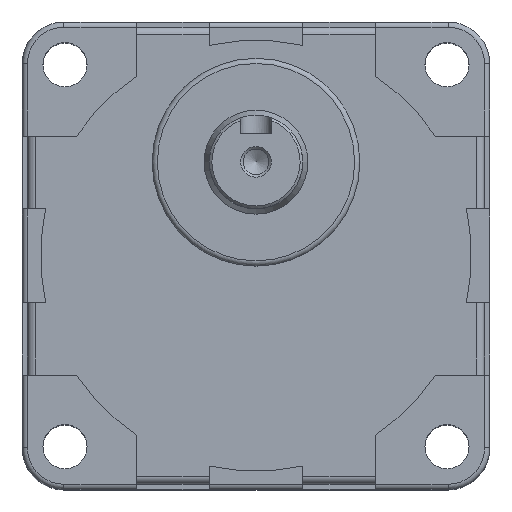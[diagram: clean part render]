
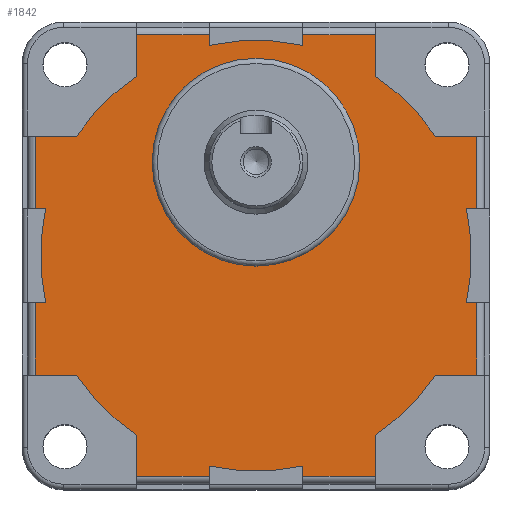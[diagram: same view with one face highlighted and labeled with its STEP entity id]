
A CAD part, top view. The second image highlights one B-rep face of the part: STEP entity #1842.
In plain terms, the highlighted planar face has unit normal (0, 0, 1).
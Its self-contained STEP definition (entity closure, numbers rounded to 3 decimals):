
#45=FACE_BOUND('',#341,.T.);
#79=CIRCLE('',#1971,20.);
#84=CIRCLE('',#1981,41.5);
#85=CIRCLE('',#1982,41.5);
#86=CIRCLE('',#1983,41.5);
#87=CIRCLE('',#1984,41.5);
#88=CIRCLE('',#1985,41.5);
#89=CIRCLE('',#1986,41.5);
#90=CIRCLE('',#1987,41.5);
#91=CIRCLE('',#1988,41.5);
#215=FACE_OUTER_BOUND('',#340,.T.);
#340=EDGE_LOOP('',(#1313,#1314,#1315,#1316,#1317,#1318,#1319,#1320,#1321,
#1322,#1323,#1324,#1325,#1326,#1327,#1328,#1329,#1330,#1331,#1332,#1333,
#1334,#1335,#1336,#1337,#1338,#1339,#1340,#1341,#1342,#1343,#1344));
#341=EDGE_LOOP('',(#1345));
#444=LINE('',#2827,#616);
#448=LINE('',#2839,#620);
#450=LINE('',#2845,#622);
#451=LINE('',#2849,#623);
#452=LINE('',#2851,#624);
#453=LINE('',#2853,#625);
#454=LINE('',#2857,#626);
#455=LINE('',#2859,#627);
#456=LINE('',#2861,#628);
#457=LINE('',#2865,#629);
#458=LINE('',#2867,#630);
#459=LINE('',#2869,#631);
#460=LINE('',#2873,#632);
#461=LINE('',#2875,#633);
#462=LINE('',#2877,#634);
#463=LINE('',#2881,#635);
#464=LINE('',#2883,#636);
#465=LINE('',#2885,#637);
#466=LINE('',#2889,#638);
#467=LINE('',#2891,#639);
#468=LINE('',#2893,#640);
#469=LINE('',#2896,#641);
#470=LINE('',#2898,#642);
#471=LINE('',#2901,#643);
#616=VECTOR('',#2241,14.);
#620=VECTOR('',#2251,14.);
#622=VECTOR('',#2257,7.957);
#623=VECTOR('',#2260,7.957);
#624=VECTOR('',#2261,14.);
#625=VECTOR('',#2262,1.988);
#626=VECTOR('',#2265,1.988);
#627=VECTOR('',#2266,14.);
#628=VECTOR('',#2267,7.957);
#629=VECTOR('',#2270,7.957);
#630=VECTOR('',#2271,14.);
#631=VECTOR('',#2272,1.988);
#632=VECTOR('',#2275,1.988);
#633=VECTOR('',#2276,14.);
#634=VECTOR('',#2277,7.957);
#635=VECTOR('',#2280,7.957);
#636=VECTOR('',#2281,14.);
#637=VECTOR('',#2282,1.988);
#638=VECTOR('',#2285,1.988);
#639=VECTOR('',#2286,14.);
#640=VECTOR('',#2287,7.957);
#641=VECTOR('',#2290,7.957);
#642=VECTOR('',#2291,1.988);
#643=VECTOR('',#2294,1.988);
#813=VERTEX_POINT('',#2816);
#814=VERTEX_POINT('',#2820);
#817=VERTEX_POINT('',#2825);
#821=VERTEX_POINT('',#2836);
#822=VERTEX_POINT('',#2838);
#824=VERTEX_POINT('',#2844);
#825=VERTEX_POINT('',#2846);
#826=VERTEX_POINT('',#2848);
#827=VERTEX_POINT('',#2850);
#828=VERTEX_POINT('',#2852);
#829=VERTEX_POINT('',#2854);
#830=VERTEX_POINT('',#2856);
#831=VERTEX_POINT('',#2858);
#832=VERTEX_POINT('',#2860);
#833=VERTEX_POINT('',#2862);
#834=VERTEX_POINT('',#2864);
#835=VERTEX_POINT('',#2866);
#836=VERTEX_POINT('',#2868);
#837=VERTEX_POINT('',#2870);
#838=VERTEX_POINT('',#2872);
#839=VERTEX_POINT('',#2874);
#840=VERTEX_POINT('',#2876);
#841=VERTEX_POINT('',#2878);
#842=VERTEX_POINT('',#2880);
#843=VERTEX_POINT('',#2882);
#844=VERTEX_POINT('',#2884);
#845=VERTEX_POINT('',#2886);
#846=VERTEX_POINT('',#2888);
#847=VERTEX_POINT('',#2890);
#848=VERTEX_POINT('',#2892);
#849=VERTEX_POINT('',#2894);
#850=VERTEX_POINT('',#2897);
#851=VERTEX_POINT('',#2899);
#1002=EDGE_CURVE('',#813,#813,#79,.T.);
#1006=EDGE_CURVE('',#817,#814,#444,.T.);
#1011=EDGE_CURVE('',#821,#822,#448,.T.);
#1014=EDGE_CURVE('',#817,#824,#450,.T.);
#1015=EDGE_CURVE('',#825,#824,#84,.T.);
#1016=EDGE_CURVE('',#826,#825,#451,.T.);
#1017=EDGE_CURVE('',#827,#826,#452,.T.);
#1018=EDGE_CURVE('',#828,#827,#453,.T.);
#1019=EDGE_CURVE('',#829,#828,#85,.T.);
#1020=EDGE_CURVE('',#829,#830,#454,.T.);
#1021=EDGE_CURVE('',#831,#830,#455,.T.);
#1022=EDGE_CURVE('',#831,#832,#456,.T.);
#1023=EDGE_CURVE('',#833,#832,#86,.T.);
#1024=EDGE_CURVE('',#834,#833,#457,.T.);
#1025=EDGE_CURVE('',#835,#834,#458,.T.);
#1026=EDGE_CURVE('',#836,#835,#459,.T.);
#1027=EDGE_CURVE('',#837,#836,#87,.T.);
#1028=EDGE_CURVE('',#837,#838,#460,.T.);
#1029=EDGE_CURVE('',#839,#838,#461,.T.);
#1030=EDGE_CURVE('',#839,#840,#462,.T.);
#1031=EDGE_CURVE('',#841,#840,#88,.T.);
#1032=EDGE_CURVE('',#842,#841,#463,.T.);
#1033=EDGE_CURVE('',#843,#842,#464,.T.);
#1034=EDGE_CURVE('',#844,#843,#465,.T.);
#1035=EDGE_CURVE('',#845,#844,#89,.T.);
#1036=EDGE_CURVE('',#845,#846,#466,.T.);
#1037=EDGE_CURVE('',#847,#846,#467,.T.);
#1038=EDGE_CURVE('',#847,#848,#468,.T.);
#1039=EDGE_CURVE('',#849,#848,#90,.T.);
#1040=EDGE_CURVE('',#822,#849,#469,.T.);
#1041=EDGE_CURVE('',#850,#821,#470,.T.);
#1042=EDGE_CURVE('',#851,#850,#91,.T.);
#1043=EDGE_CURVE('',#851,#814,#471,.T.);
#1313=ORIENTED_EDGE('',*,*,#1006,.F.);
#1314=ORIENTED_EDGE('',*,*,#1014,.T.);
#1315=ORIENTED_EDGE('',*,*,#1015,.F.);
#1316=ORIENTED_EDGE('',*,*,#1016,.F.);
#1317=ORIENTED_EDGE('',*,*,#1017,.F.);
#1318=ORIENTED_EDGE('',*,*,#1018,.F.);
#1319=ORIENTED_EDGE('',*,*,#1019,.F.);
#1320=ORIENTED_EDGE('',*,*,#1020,.T.);
#1321=ORIENTED_EDGE('',*,*,#1021,.F.);
#1322=ORIENTED_EDGE('',*,*,#1022,.T.);
#1323=ORIENTED_EDGE('',*,*,#1023,.F.);
#1324=ORIENTED_EDGE('',*,*,#1024,.F.);
#1325=ORIENTED_EDGE('',*,*,#1025,.F.);
#1326=ORIENTED_EDGE('',*,*,#1026,.F.);
#1327=ORIENTED_EDGE('',*,*,#1027,.F.);
#1328=ORIENTED_EDGE('',*,*,#1028,.T.);
#1329=ORIENTED_EDGE('',*,*,#1029,.F.);
#1330=ORIENTED_EDGE('',*,*,#1030,.T.);
#1331=ORIENTED_EDGE('',*,*,#1031,.F.);
#1332=ORIENTED_EDGE('',*,*,#1032,.F.);
#1333=ORIENTED_EDGE('',*,*,#1033,.F.);
#1334=ORIENTED_EDGE('',*,*,#1034,.F.);
#1335=ORIENTED_EDGE('',*,*,#1035,.F.);
#1336=ORIENTED_EDGE('',*,*,#1036,.T.);
#1337=ORIENTED_EDGE('',*,*,#1037,.F.);
#1338=ORIENTED_EDGE('',*,*,#1038,.T.);
#1339=ORIENTED_EDGE('',*,*,#1039,.F.);
#1340=ORIENTED_EDGE('',*,*,#1040,.F.);
#1341=ORIENTED_EDGE('',*,*,#1011,.F.);
#1342=ORIENTED_EDGE('',*,*,#1041,.F.);
#1343=ORIENTED_EDGE('',*,*,#1042,.F.);
#1344=ORIENTED_EDGE('',*,*,#1043,.T.);
#1345=ORIENTED_EDGE('',*,*,#1002,.F.);
#1773=PLANE('',#1980);
#1842=ADVANCED_FACE('',(#215,#45),#1773,.T.);
#1971=AXIS2_PLACEMENT_3D('',#2817,#2230,#2231);
#1980=AXIS2_PLACEMENT_3D('',#2843,#2255,#2256);
#1981=AXIS2_PLACEMENT_3D('',#2847,#2258,#2259);
#1982=AXIS2_PLACEMENT_3D('',#2855,#2263,#2264);
#1983=AXIS2_PLACEMENT_3D('',#2863,#2268,#2269);
#1984=AXIS2_PLACEMENT_3D('',#2871,#2273,#2274);
#1985=AXIS2_PLACEMENT_3D('',#2879,#2278,#2279);
#1986=AXIS2_PLACEMENT_3D('',#2887,#2283,#2284);
#1987=AXIS2_PLACEMENT_3D('',#2895,#2288,#2289);
#1988=AXIS2_PLACEMENT_3D('',#2900,#2292,#2293);
#2230=DIRECTION('center_axis',(0.,0.,1.));
#2231=DIRECTION('ref_axis',(-1.,0.,0.));
#2241=DIRECTION('',(0.,-1.,0.));
#2251=DIRECTION('',(0.,-1.,0.));
#2255=DIRECTION('center_axis',(0.,0.,1.));
#2256=DIRECTION('ref_axis',(1.,0.,0.));
#2257=DIRECTION('',(-1.,0.,0.));
#2258=DIRECTION('center_axis',(0.,0.,-1.));
#2259=DIRECTION('ref_axis',(-1.,0.,0.));
#2260=DIRECTION('',(0.,-1.,0.));
#2261=DIRECTION('',(1.,0.,0.));
#2262=DIRECTION('',(0.,1.,0.));
#2263=DIRECTION('center_axis',(0.,0.,-1.));
#2264=DIRECTION('ref_axis',(-1.,0.,0.));
#2265=DIRECTION('',(0.,1.,0.));
#2266=DIRECTION('',(1.,0.,0.));
#2267=DIRECTION('',(0.,-1.,0.));
#2268=DIRECTION('center_axis',(0.,0.,-1.));
#2269=DIRECTION('ref_axis',(-1.,0.,0.));
#2270=DIRECTION('',(1.,0.,0.));
#2271=DIRECTION('',(0.,1.,0.));
#2272=DIRECTION('',(-1.,0.,0.));
#2273=DIRECTION('center_axis',(0.,0.,-1.));
#2274=DIRECTION('ref_axis',(-1.,0.,0.));
#2275=DIRECTION('',(-1.,0.,0.));
#2276=DIRECTION('',(0.,1.,0.));
#2277=DIRECTION('',(1.,0.,0.));
#2278=DIRECTION('center_axis',(0.,0.,-1.));
#2279=DIRECTION('ref_axis',(-1.,0.,0.));
#2280=DIRECTION('',(0.,1.,0.));
#2281=DIRECTION('',(-1.,0.,0.));
#2282=DIRECTION('',(0.,-1.,0.));
#2283=DIRECTION('center_axis',(0.,0.,-1.));
#2284=DIRECTION('ref_axis',(-1.,0.,0.));
#2285=DIRECTION('',(0.,-1.,0.));
#2286=DIRECTION('',(-1.,0.,0.));
#2287=DIRECTION('',(0.,1.,0.));
#2288=DIRECTION('center_axis',(0.,0.,-1.));
#2289=DIRECTION('ref_axis',(-1.,0.,0.));
#2290=DIRECTION('',(-1.,0.,0.));
#2291=DIRECTION('',(1.,0.,0.));
#2292=DIRECTION('center_axis',(0.,0.,-1.));
#2293=DIRECTION('ref_axis',(-1.,0.,0.));
#2294=DIRECTION('',(1.,0.,0.));
#2816=CARTESIAN_POINT('',(20.,18.,63.2));
#2817=CARTESIAN_POINT('Origin',(0.,18.,63.2));
#2820=CARTESIAN_POINT('',(42.5,9.,63.2));
#2825=CARTESIAN_POINT('',(42.5,23.,63.2));
#2827=CARTESIAN_POINT('',(42.5,11.5,63.2));
#2836=CARTESIAN_POINT('',(42.5,-9.,63.2));
#2838=CARTESIAN_POINT('',(42.5,-23.,63.2));
#2839=CARTESIAN_POINT('',(42.5,-11.5,63.2));
#2843=CARTESIAN_POINT('Origin',(0.,0.,
63.2));
#2844=CARTESIAN_POINT('',(34.543,23.,63.2));
#2845=CARTESIAN_POINT('',(34.543,23.,63.2));
#2846=CARTESIAN_POINT('',(23.,34.543,63.2));
#2847=CARTESIAN_POINT('Origin',(0.,0.,63.2));
#2848=CARTESIAN_POINT('',(23.,42.5,63.2));
#2849=CARTESIAN_POINT('',(23.,34.543,63.2));
#2850=CARTESIAN_POINT('',(9.,42.5,63.2));
#2851=CARTESIAN_POINT('',(11.5,42.5,63.2));
#2852=CARTESIAN_POINT('',(9.,40.512,63.2));
#2853=CARTESIAN_POINT('',(9.,45.,63.2));
#2854=CARTESIAN_POINT('',(-9.,40.512,63.2));
#2855=CARTESIAN_POINT('Origin',(0.,0.,63.2));
#2856=CARTESIAN_POINT('',(-9.,42.5,63.2));
#2857=CARTESIAN_POINT('',(-9.,45.,63.2));
#2858=CARTESIAN_POINT('',(-23.,42.5,63.2));
#2859=CARTESIAN_POINT('',(-11.5,42.5,63.2));
#2860=CARTESIAN_POINT('',(-23.,34.543,63.2));
#2861=CARTESIAN_POINT('',(-23.,34.543,63.2));
#2862=CARTESIAN_POINT('',(-34.543,23.,63.2));
#2863=CARTESIAN_POINT('Origin',(0.,0.,63.2));
#2864=CARTESIAN_POINT('',(-42.5,23.,63.2));
#2865=CARTESIAN_POINT('',(-34.543,23.,63.2));
#2866=CARTESIAN_POINT('',(-42.5,9.,63.2));
#2867=CARTESIAN_POINT('',(-42.5,11.5,63.2));
#2868=CARTESIAN_POINT('',(-40.512,9.,63.2));
#2869=CARTESIAN_POINT('',(-45.,9.,63.2));
#2870=CARTESIAN_POINT('',(-40.512,-9.,63.2));
#2871=CARTESIAN_POINT('Origin',(0.,0.,63.2));
#2872=CARTESIAN_POINT('',(-42.5,-9.,63.2));
#2873=CARTESIAN_POINT('',(-45.,-9.,63.2));
#2874=CARTESIAN_POINT('',(-42.5,-23.,63.2));
#2875=CARTESIAN_POINT('',(-42.5,-11.5,63.2));
#2876=CARTESIAN_POINT('',(-34.543,-23.,63.2));
#2877=CARTESIAN_POINT('',(-34.543,-23.,63.2));
#2878=CARTESIAN_POINT('',(-23.,-34.543,63.2));
#2879=CARTESIAN_POINT('Origin',(0.,0.,63.2));
#2880=CARTESIAN_POINT('',(-23.,-42.5,63.2));
#2881=CARTESIAN_POINT('',(-23.,-34.543,63.2));
#2882=CARTESIAN_POINT('',(-9.,-42.5,63.2));
#2883=CARTESIAN_POINT('',(-11.5,-42.5,63.2));
#2884=CARTESIAN_POINT('',(-9.,-40.512,63.2));
#2885=CARTESIAN_POINT('',(-9.,-45.,63.2));
#2886=CARTESIAN_POINT('',(9.,-40.512,63.2));
#2887=CARTESIAN_POINT('Origin',(0.,0.,63.2));
#2888=CARTESIAN_POINT('',(9.,-42.5,63.2));
#2889=CARTESIAN_POINT('',(9.,-45.,63.2));
#2890=CARTESIAN_POINT('',(23.,-42.5,63.2));
#2891=CARTESIAN_POINT('',(11.5,-42.5,63.2));
#2892=CARTESIAN_POINT('',(23.,-34.543,63.2));
#2893=CARTESIAN_POINT('',(23.,-34.543,63.2));
#2894=CARTESIAN_POINT('',(34.543,-23.,63.2));
#2895=CARTESIAN_POINT('Origin',(0.,0.,63.2));
#2896=CARTESIAN_POINT('',(34.543,-23.,63.2));
#2897=CARTESIAN_POINT('',(40.512,-9.,63.2));
#2898=CARTESIAN_POINT('',(45.,-9.,63.2));
#2899=CARTESIAN_POINT('',(40.512,9.,63.2));
#2900=CARTESIAN_POINT('Origin',(0.,0.,63.2));
#2901=CARTESIAN_POINT('',(45.,9.,63.2));
